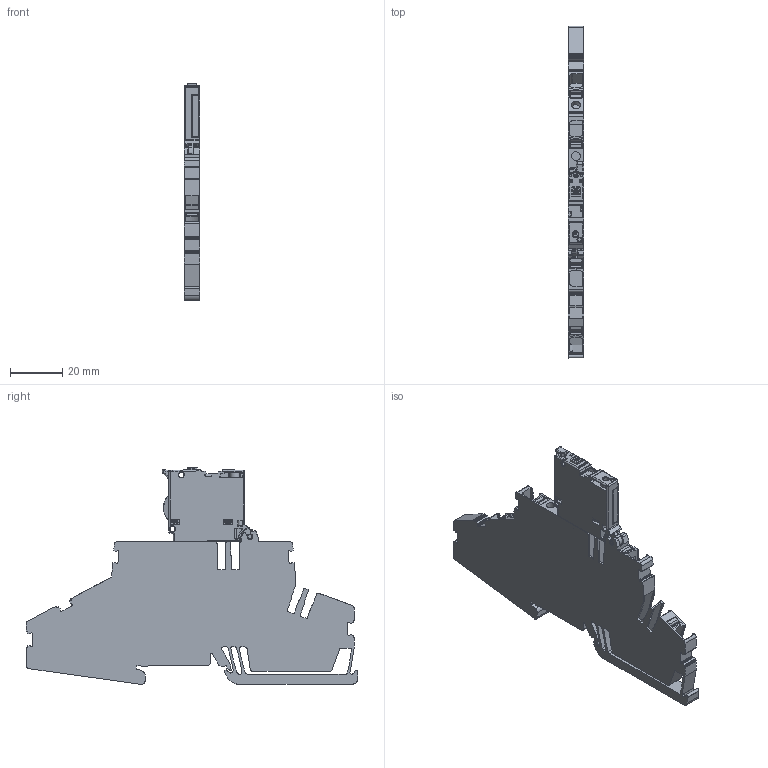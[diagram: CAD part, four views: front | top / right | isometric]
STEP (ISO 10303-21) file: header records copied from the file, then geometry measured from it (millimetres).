
FILE_DESCRIPTION(('CATIA V5R22 STEP214','CAx-IF Rec.Pracs.--- Model Styling and Organization---1.4--- 2014-01-23'),'2;1');
FILE_NAME ('1348494-4_1_2816960000_2816960000.stp','2021-11-04T13:05:48+00:00',('none'),('Weidmueller'),'CATIA Version 5-6 Release 2016 SP3 HF44','CATIA V5 STEP AP214','none');
FILE_SCHEMA(('AUTOMOTIVE_DESIGN { 1 0 10303 214 1 1 1 1 }'));
Products named in the file (1): 2816960000
Bounding box: 6.1 x 127.26 x 83.12 mm (x, y, z)
Volume: 31128.2 mm3; surface area: 22108.1 mm2
Topology: 8 solids, 8 shells, 2936 faces, 8264 edges, 5325 vertices
Faces by surface type: plane 1410, cylinder 1039, torus 154, cone 126, bspline 98, extrusion 67, sphere 42
Entity records: 100384 total; most frequent: CARTESIAN_POINT 29020, ORIENTED_EDGE 16448, DIRECTION 11950, EDGE_CURVE 8224, VERTEX_POINT 5325, VECTOR 5132, LINE 5065, AXIS2_PLACEMENT_3D 4363
